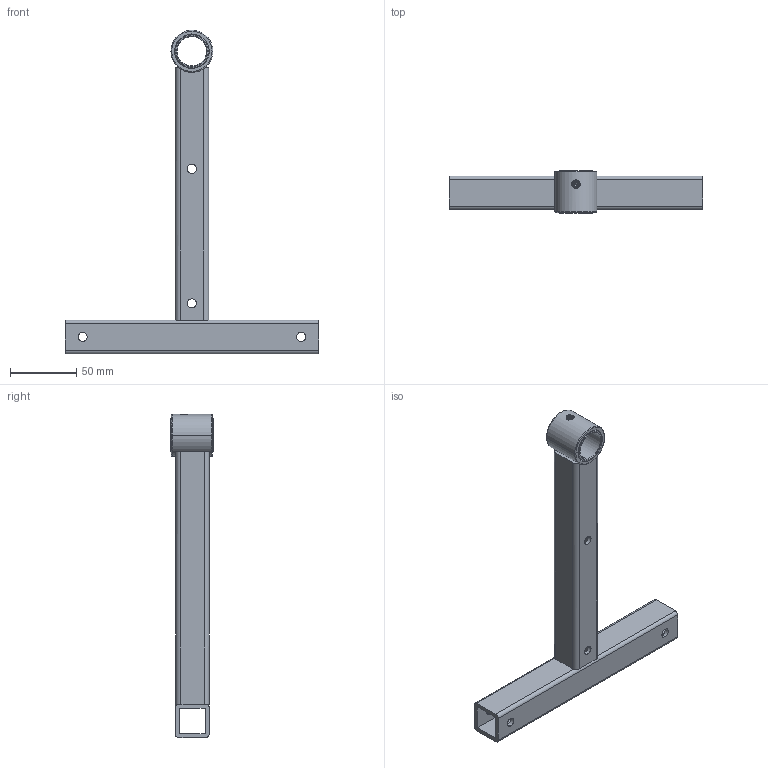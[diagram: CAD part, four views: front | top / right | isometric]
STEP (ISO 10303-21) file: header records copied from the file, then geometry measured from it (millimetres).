
FILE_DESCRIPTION (( 'STEP AP214' ), '1' );
FILE_NAME ('70-0050-00 REV AA, T BAR.STEP', '2025-05-13T12:47:29', ( '' ), ( '' ), 'SwSTEP 2.0', 'SolidWorks 2025', '' );
FILE_SCHEMA (( 'AUTOMOTIVE_DESIGN' ));
Length unit declared in the file: inch
Products named in the file (6): 71-0013-RX REV AA, HOUSING, BEARING, SHORT_MACHINE; 70-0050-00 REV AA, T BAR; 71-0047-RX REV AA, HOUSING, T AND STRAIGHT BAR_MACHINE; 007-031-00_007-031-00; 016-008-00, OILITE PLUS BEARING, 0.876 id x 1.002 od x 1.25 lg; 71-0052-RX REV AA, HOUSING, T AND STRAIGHT BAR CROSS SECTION_MACHINE
Assembly tree (5 placements, depth 2):
  70-0050-00 REV AA, T BAR
    71-0047-RX REV AA, HOUSING, T AND STRAIGHT BAR_MACHINE
    71-0013-RX REV AA, HOUSING, BEARING, SHORT_MACHINE
    71-0052-RX REV AA, HOUSING, T AND STRAIGHT BAR CROSS SECTION_MACHINE
    016-008-00, OILITE PLUS BEARING, 0.876 id x 1.002 od x 1.25 lg
    007-031-00_007-031-00
Bounding box: 191.64 x 31.75 x 244.47 mm (x, y, z)
Volume: 112383.4 mm3; surface area: 78089.1 mm2
Topology: 5 solids, 5 shells, 122 faces, 298 edges, 183 vertices
Faces by surface type: cylinder 47, plane 38, cone 22, torus 12, bspline 3
Entity records: 4907 total; most frequent: CARTESIAN_POINT 1828, DIRECTION 623, ORIENTED_EDGE 588, EDGE_CURVE 294, AXIS2_PLACEMENT_3D 249, VERTEX_POINT 183, EDGE_LOOP 149, VECTOR 125
